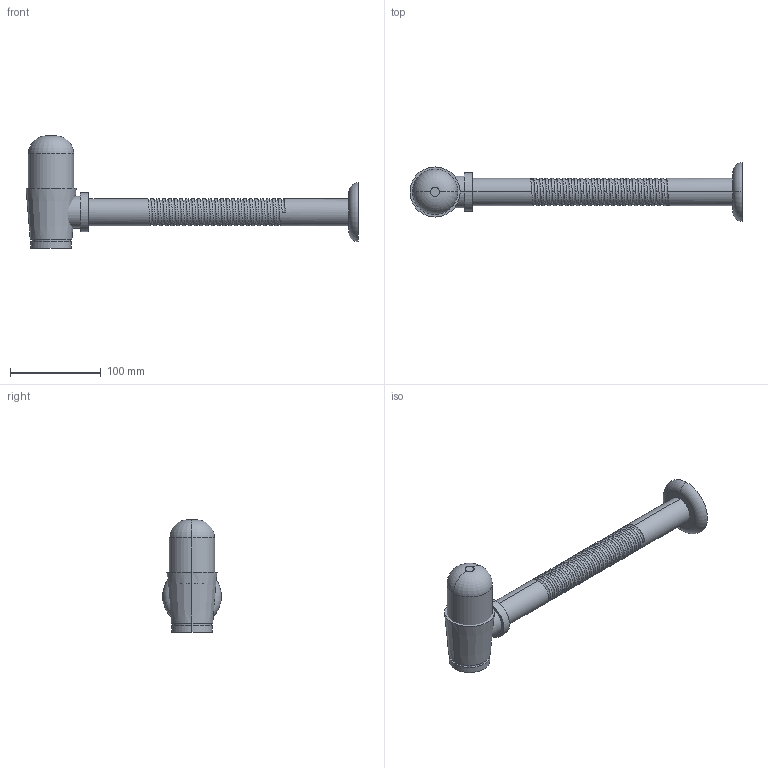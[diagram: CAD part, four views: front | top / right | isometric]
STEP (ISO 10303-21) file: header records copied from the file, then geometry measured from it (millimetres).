
FILE_DESCRIPTION (( 'STEP AP203' ), '1' );
FILE_NAME ('SF.SF165.STEP', '2018-08-13T12:47:33', ( '' ), ( '' ), 'SwSTEP 2.0', 'SolidWorks 2018', '' );
FILE_SCHEMA (( 'CONFIG_CONTROL_DESIGN' ));
Length unit declared in the file: millimetre
Products named in the file (1): SF.SF165
Bounding box: 366.67 x 65 x 124.06 mm (x, y, z)
Volume: 375451.1 mm3; surface area: 97830.5 mm2
Topology: 8 solids, 8 shells, 101 faces, 235 edges, 156 vertices
Faces by surface type: cylinder 66, plane 24, torus 6, cone 4, bspline 1
Entity records: 8766 total; most frequent: CARTESIAN_POINT 6609, ORIENTED_EDGE 470, DIRECTION 407, EDGE_CURVE 235, AXIS2_PLACEMENT_3D 167, VERTEX_POINT 156, EDGE_LOOP 107, ADVANCED_FACE 101
